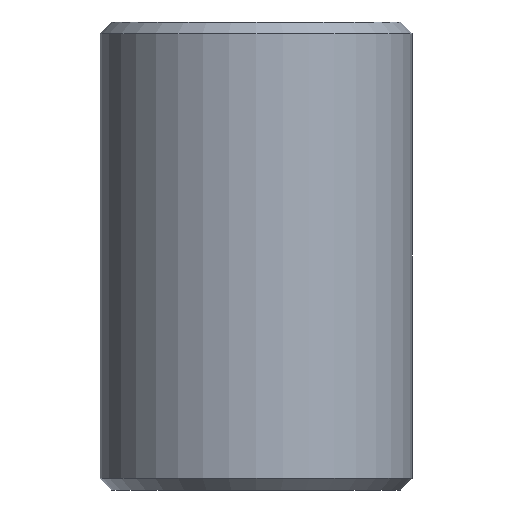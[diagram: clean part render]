
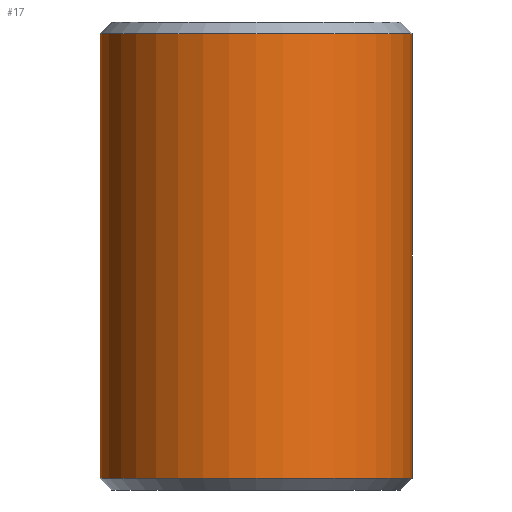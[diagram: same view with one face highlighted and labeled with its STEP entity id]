
A CAD part, front view. The second image highlights one B-rep face of the part: STEP entity #17.
In plain terms, the highlighted cylindrical face has radius 4 mm (diameter 8 mm), a full revolution.
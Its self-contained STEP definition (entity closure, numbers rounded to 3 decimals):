
#17 = ADVANCED_FACE('',(#18),#32,.T.);
#18 = FACE_BOUND('',#19,.T.);
#19 = EDGE_LOOP('',(#20,#50,#77,#78));
#20 = ORIENTED_EDGE('',*,*,#21,.T.);
#21 = EDGE_CURVE('',#22,#24,#26,.T.);
#22 = VERTEX_POINT('',#23);
#23 = CARTESIAN_POINT('',(4.,0.,-5.7));
#24 = VERTEX_POINT('',#25);
#25 = CARTESIAN_POINT('',(4.,0.,5.7));
#26 = SEAM_CURVE('',#27,(#31,#43),.PCURVE_S1.);
#27 = LINE('',#28,#29);
#28 = CARTESIAN_POINT('',(4.,0.,-6.));
#29 = VECTOR('',#30,1.);
#30 = DIRECTION('',(0.,0.,1.));
#31 = PCURVE('',#32,#37);
#32 = CYLINDRICAL_SURFACE('',#33,4.);
#33 = AXIS2_PLACEMENT_3D('',#34,#35,#36);
#34 = CARTESIAN_POINT('',(0.,0.,-6.));
#35 = DIRECTION('',(0.,0.,1.));
#36 = DIRECTION('',(1.,0.,-0.));
#37 = DEFINITIONAL_REPRESENTATION('',(#38),#42);
#38 = LINE('',#39,#40);
#39 = CARTESIAN_POINT('',(6.283,-0.));
#40 = VECTOR('',#41,1.);
#41 = DIRECTION('',(0.,1.));
#42 = ( GEOMETRIC_REPRESENTATION_CONTEXT(2) 
PARAMETRIC_REPRESENTATION_CONTEXT() REPRESENTATION_CONTEXT('2D SPACE',''
  ) );
#43 = PCURVE('',#32,#44);
#44 = DEFINITIONAL_REPRESENTATION('',(#45),#49);
#45 = LINE('',#46,#47);
#46 = CARTESIAN_POINT('',(0.,-0.));
#47 = VECTOR('',#48,1.);
#48 = DIRECTION('',(0.,1.));
#49 = ( GEOMETRIC_REPRESENTATION_CONTEXT(2) 
PARAMETRIC_REPRESENTATION_CONTEXT() REPRESENTATION_CONTEXT('2D SPACE',''
  ) );
#50 = ORIENTED_EDGE('',*,*,#51,.F.);
#51 = EDGE_CURVE('',#24,#24,#52,.T.);
#52 = SURFACE_CURVE('',#53,(#58,#65),.PCURVE_S1.);
#53 = CIRCLE('',#54,4.);
#54 = AXIS2_PLACEMENT_3D('',#55,#56,#57);
#55 = CARTESIAN_POINT('',(0.,0.,5.7));
#56 = DIRECTION('',(0.,0.,1.));
#57 = DIRECTION('',(1.,0.,-0.));
#58 = PCURVE('',#32,#59);
#59 = DEFINITIONAL_REPRESENTATION('',(#60),#64);
#60 = LINE('',#61,#62);
#61 = CARTESIAN_POINT('',(0.,11.7));
#62 = VECTOR('',#63,1.);
#63 = DIRECTION('',(1.,0.));
#64 = ( GEOMETRIC_REPRESENTATION_CONTEXT(2) 
PARAMETRIC_REPRESENTATION_CONTEXT() REPRESENTATION_CONTEXT('2D SPACE',''
  ) );
#65 = PCURVE('',#66,#71);
#66 = CONICAL_SURFACE('',#67,4.,0.785);
#67 = AXIS2_PLACEMENT_3D('',#68,#69,#70);
#68 = CARTESIAN_POINT('',(0.,0.,5.7));
#69 = DIRECTION('',(-0.,-0.,-1.));
#70 = DIRECTION('',(1.,0.,0.));
#71 = DEFINITIONAL_REPRESENTATION('',(#72),#76);
#72 = LINE('',#73,#74);
#73 = CARTESIAN_POINT('',(-0.,-0.));
#74 = VECTOR('',#75,1.);
#75 = DIRECTION('',(-1.,-0.));
#76 = ( GEOMETRIC_REPRESENTATION_CONTEXT(2) 
PARAMETRIC_REPRESENTATION_CONTEXT() REPRESENTATION_CONTEXT('2D SPACE',''
  ) );
#77 = ORIENTED_EDGE('',*,*,#21,.F.);
#78 = ORIENTED_EDGE('',*,*,#79,.T.);
#79 = EDGE_CURVE('',#22,#22,#80,.T.);
#80 = SURFACE_CURVE('',#81,(#86,#93),.PCURVE_S1.);
#81 = CIRCLE('',#82,4.);
#82 = AXIS2_PLACEMENT_3D('',#83,#84,#85);
#83 = CARTESIAN_POINT('',(0.,0.,-5.7));
#84 = DIRECTION('',(0.,0.,1.));
#85 = DIRECTION('',(1.,0.,-0.));
#86 = PCURVE('',#32,#87);
#87 = DEFINITIONAL_REPRESENTATION('',(#88),#92);
#88 = LINE('',#89,#90);
#89 = CARTESIAN_POINT('',(0.,0.3));
#90 = VECTOR('',#91,1.);
#91 = DIRECTION('',(1.,0.));
#92 = ( GEOMETRIC_REPRESENTATION_CONTEXT(2) 
PARAMETRIC_REPRESENTATION_CONTEXT() REPRESENTATION_CONTEXT('2D SPACE',''
  ) );
#93 = PCURVE('',#94,#99);
#94 = CONICAL_SURFACE('',#95,4.,0.785);
#95 = AXIS2_PLACEMENT_3D('',#96,#97,#98);
#96 = CARTESIAN_POINT('',(0.,0.,-5.7));
#97 = DIRECTION('',(0.,0.,1.));
#98 = DIRECTION('',(1.,0.,-0.));
#99 = DEFINITIONAL_REPRESENTATION('',(#100),#104);
#100 = LINE('',#101,#102);
#101 = CARTESIAN_POINT('',(0.,-0.));
#102 = VECTOR('',#103,1.);
#103 = DIRECTION('',(1.,-0.));
#104 = ( GEOMETRIC_REPRESENTATION_CONTEXT(2) 
PARAMETRIC_REPRESENTATION_CONTEXT() REPRESENTATION_CONTEXT('2D SPACE',''
  ) );
